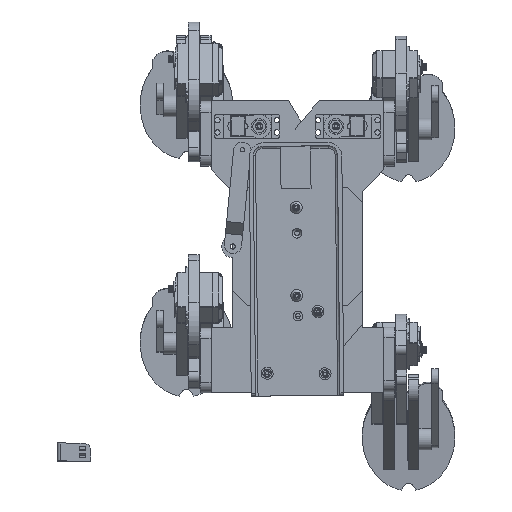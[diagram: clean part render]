
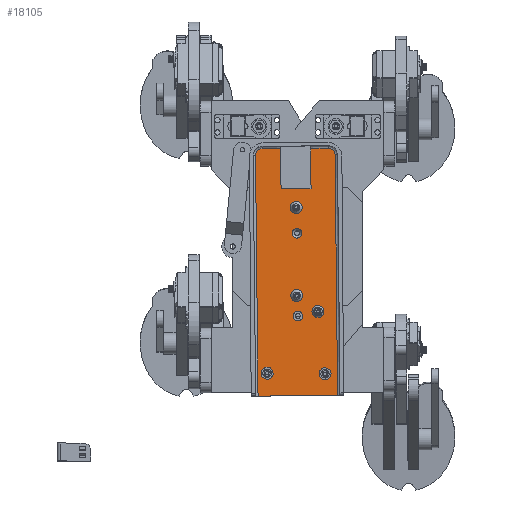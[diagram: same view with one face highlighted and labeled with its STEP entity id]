
A CAD part, top view. The second image highlights one B-rep face of the part: STEP entity #18105.
In plain terms, the highlighted planar face has unit normal (0, 0, 1).
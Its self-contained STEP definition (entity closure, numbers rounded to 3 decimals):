
#921=FACE_BOUND('',#3624,.T.);
#922=FACE_BOUND('',#3625,.T.);
#923=FACE_BOUND('',#3626,.T.);
#924=FACE_BOUND('',#3627,.T.);
#925=FACE_BOUND('',#3628,.T.);
#926=FACE_BOUND('',#3629,.T.);
#927=FACE_BOUND('',#3630,.T.);
#1521=PLANE('',#20732);
#2441=FACE_OUTER_BOUND('',#3623,.T.);
#3623=EDGE_LOOP('',(#16487,#16488,#16489,#16490,#16491,#16492,#16493,#16494,
#16495,#16496));
#3624=EDGE_LOOP('',(#16497));
#3625=EDGE_LOOP('',(#16498));
#3626=EDGE_LOOP('',(#16499));
#3627=EDGE_LOOP('',(#16500));
#3628=EDGE_LOOP('',(#16501));
#3629=EDGE_LOOP('',(#16502));
#3630=EDGE_LOOP('',(#16503));
#5272=LINE('',#31363,#6917);
#5273=LINE('',#31365,#6918);
#5274=LINE('',#31369,#6919);
#5275=LINE('',#31371,#6920);
#5276=LINE('',#31373,#6921);
#5277=LINE('',#31377,#6922);
#5278=LINE('',#31379,#6923);
#5279=LINE('',#31380,#6924);
#6917=VECTOR('',#25709,10.);
#6918=VECTOR('',#25710,10.);
#6919=VECTOR('',#25713,10.);
#6920=VECTOR('',#25714,10.);
#6921=VECTOR('',#25715,10.);
#6922=VECTOR('',#25718,10.);
#6923=VECTOR('',#25719,10.);
#6924=VECTOR('',#25720,10.);
#7694=CIRCLE('',#20731,4.);
#7695=CIRCLE('',#20733,5.5);
#7696=CIRCLE('',#20734,5.5);
#7697=CIRCLE('',#20735,4.);
#7698=CIRCLE('',#20736,5.);
#7699=CIRCLE('',#20737,5.);
#7700=CIRCLE('',#20738,5.);
#7701=CIRCLE('',#20739,5.);
#7702=CIRCLE('',#20740,5.);
#9271=VERTEX_POINT('',#31357);
#9272=VERTEX_POINT('',#31361);
#9273=VERTEX_POINT('',#31362);
#9274=VERTEX_POINT('',#31364);
#9275=VERTEX_POINT('',#31366);
#9276=VERTEX_POINT('',#31368);
#9277=VERTEX_POINT('',#31370);
#9278=VERTEX_POINT('',#31372);
#9279=VERTEX_POINT('',#31374);
#9280=VERTEX_POINT('',#31376);
#9281=VERTEX_POINT('',#31378);
#9282=VERTEX_POINT('',#31381);
#9283=VERTEX_POINT('',#31383);
#9284=VERTEX_POINT('',#31385);
#9285=VERTEX_POINT('',#31387);
#9286=VERTEX_POINT('',#31389);
#9287=VERTEX_POINT('',#31391);
#11697=EDGE_CURVE('',#9271,#9271,#7694,.T.);
#11698=EDGE_CURVE('',#9272,#9273,#5272,.T.);
#11699=EDGE_CURVE('',#9274,#9273,#5273,.T.);
#11700=EDGE_CURVE('',#9275,#9274,#7695,.T.);
#11701=EDGE_CURVE('',#9276,#9275,#5274,.T.);
#11702=EDGE_CURVE('',#9276,#9277,#5275,.T.);
#11703=EDGE_CURVE('',#9278,#9277,#5276,.T.);
#11704=EDGE_CURVE('',#9279,#9278,#7696,.T.);
#11705=EDGE_CURVE('',#9280,#9279,#5277,.T.);
#11706=EDGE_CURVE('',#9280,#9281,#5278,.T.);
#11707=EDGE_CURVE('',#9281,#9272,#5279,.T.);
#11708=EDGE_CURVE('',#9282,#9282,#7697,.T.);
#11709=EDGE_CURVE('',#9283,#9283,#7698,.T.);
#11710=EDGE_CURVE('',#9284,#9284,#7699,.T.);
#11711=EDGE_CURVE('',#9285,#9285,#7700,.T.);
#11712=EDGE_CURVE('',#9286,#9286,#7701,.T.);
#11713=EDGE_CURVE('',#9287,#9287,#7702,.T.);
#16487=ORIENTED_EDGE('',*,*,#11698,.T.);
#16488=ORIENTED_EDGE('',*,*,#11699,.F.);
#16489=ORIENTED_EDGE('',*,*,#11700,.F.);
#16490=ORIENTED_EDGE('',*,*,#11701,.F.);
#16491=ORIENTED_EDGE('',*,*,#11702,.T.);
#16492=ORIENTED_EDGE('',*,*,#11703,.F.);
#16493=ORIENTED_EDGE('',*,*,#11704,.F.);
#16494=ORIENTED_EDGE('',*,*,#11705,.F.);
#16495=ORIENTED_EDGE('',*,*,#11706,.T.);
#16496=ORIENTED_EDGE('',*,*,#11707,.T.);
#16497=ORIENTED_EDGE('',*,*,#11708,.F.);
#16498=ORIENTED_EDGE('',*,*,#11709,.F.);
#16499=ORIENTED_EDGE('',*,*,#11710,.T.);
#16500=ORIENTED_EDGE('',*,*,#11711,.T.);
#16501=ORIENTED_EDGE('',*,*,#11712,.T.);
#16502=ORIENTED_EDGE('',*,*,#11713,.F.);
#16503=ORIENTED_EDGE('',*,*,#11697,.F.);
#18105=ADVANCED_FACE('',(#2441,#921,#922,#923,#924,#925,#926,#927),#1521,
 .T.);
#20731=AXIS2_PLACEMENT_3D('',#31359,#25705,#25706);
#20732=AXIS2_PLACEMENT_3D('',#31360,#25707,#25708);
#20733=AXIS2_PLACEMENT_3D('',#31367,#25711,#25712);
#20734=AXIS2_PLACEMENT_3D('',#31375,#25716,#25717);
#20735=AXIS2_PLACEMENT_3D('',#31382,#25721,#25722);
#20736=AXIS2_PLACEMENT_3D('',#31384,#25723,#25724);
#20737=AXIS2_PLACEMENT_3D('',#31386,#25725,#25726);
#20738=AXIS2_PLACEMENT_3D('',#31388,#25727,#25728);
#20739=AXIS2_PLACEMENT_3D('',#31390,#25729,#25730);
#20740=AXIS2_PLACEMENT_3D('',#31392,#25731,#25732);
#25705=DIRECTION('center_axis',(0.,0.,
1.));
#25706=DIRECTION('ref_axis',(-1.,0.,0.));
#25707=DIRECTION('center_axis',(0.,0.,
1.));
#25708=DIRECTION('ref_axis',(1.,-0.003,0.));
#25709=DIRECTION('',(0.,1.,0.));
#25710=DIRECTION('',(1.,0.,0.));
#25711=DIRECTION('center_axis',(0.,0.,
-1.));
#25712=DIRECTION('ref_axis',(-0.707,0.707,0.));
#25713=DIRECTION('',(0.,1.,0.));
#25714=DIRECTION('',(1.,-0.003,0.));
#25715=DIRECTION('',(0.,-1.,0.));
#25716=DIRECTION('center_axis',(0.,0.,
-1.));
#25717=DIRECTION('ref_axis',(0.707,0.707,0.));
#25718=DIRECTION('',(1.,0.,0.));
#25719=DIRECTION('',(0.,-1.,0.));
#25720=DIRECTION('',(-1.,0.,0.));
#25721=DIRECTION('center_axis',(0.,0.,
1.));
#25722=DIRECTION('ref_axis',(-1.,0.,0.));
#25723=DIRECTION('center_axis',(0.,0.,
1.));
#25724=DIRECTION('ref_axis',(-1.,0.,0.));
#25725=DIRECTION('center_axis',(0.,0.,
-1.));
#25726=DIRECTION('ref_axis',(0.005,-1.,0.));
#25727=DIRECTION('center_axis',(0.,0.,
-1.));
#25728=DIRECTION('ref_axis',(0.005,-1.,0.));
#25729=DIRECTION('center_axis',(0.,0.,
-1.));
#25730=DIRECTION('ref_axis',(0.005,-1.,0.));
#25731=DIRECTION('center_axis',(0.,0.,
1.));
#25732=DIRECTION('ref_axis',(-1.,0.,0.));
#31357=CARTESIAN_POINT('',(48.307,13.769,112.644));
#31359=CARTESIAN_POINT('Origin',(44.307,13.769,112.644));
#31360=CARTESIAN_POINT('Origin',(43.406,10.805,112.644));
#31361=CARTESIAN_POINT('',(31.406,119.904,112.644));
#31362=CARTESIAN_POINT('',(31.406,153.435,112.644));
#31363=CARTESIAN_POINT('',(31.406,79.355,112.644));
#31364=CARTESIAN_POINT('',(15.906,153.435,112.644));
#31365=CARTESIAN_POINT('',(25.906,153.435,112.644));
#31366=CARTESIAN_POINT('',(10.406,147.935,112.644));
#31367=CARTESIAN_POINT('Origin',(15.906,147.935,112.644));
#31368=CARTESIAN_POINT('',(10.406,-52.583,112.644));
#31369=CARTESIAN_POINT('',(10.406,-19.51,112.644));
#31370=CARTESIAN_POINT('',(76.718,-52.808,112.644));
#31371=CARTESIAN_POINT('',(101.44,-52.892,112.644));
#31372=CARTESIAN_POINT('',(76.718,147.935,112.644));
#31373=CARTESIAN_POINT('',(76.718,83.12,112.644));
#31374=CARTESIAN_POINT('',(71.218,153.435,112.644));
#31375=CARTESIAN_POINT('Origin',(71.218,147.935,112.644));
#31376=CARTESIAN_POINT('',(56.406,153.435,112.644));
#31377=CARTESIAN_POINT('',(25.906,153.435,112.644));
#31378=CARTESIAN_POINT('',(56.406,119.904,112.644));
#31379=CARTESIAN_POINT('',(56.406,66.855,112.644));
#31380=CARTESIAN_POINT('',(37.406,119.904,112.644));
#31381=CARTESIAN_POINT('',(48.307,82.769,112.644));
#31382=CARTESIAN_POINT('Origin',(44.307,82.769,112.644));
#31383=CARTESIAN_POINT('',(48.569,30.814,112.644));
#31384=CARTESIAN_POINT('Origin',(43.569,30.814,112.644));
#31385=CARTESIAN_POINT('',(61.047,22.43,112.644));
#31386=CARTESIAN_POINT('Origin',(61.073,17.43,112.644));
#31387=CARTESIAN_POINT('',(18.138,-28.599,112.644));
#31388=CARTESIAN_POINT('Origin',(18.165,-33.599,112.644));
#31389=CARTESIAN_POINT('',(66.404,-29.612,112.644));
#31390=CARTESIAN_POINT('Origin',(66.431,-34.612,112.644));
#31391=CARTESIAN_POINT('',(48.818,104.313,112.644));
#31392=CARTESIAN_POINT('Origin',(43.818,104.313,112.644));
